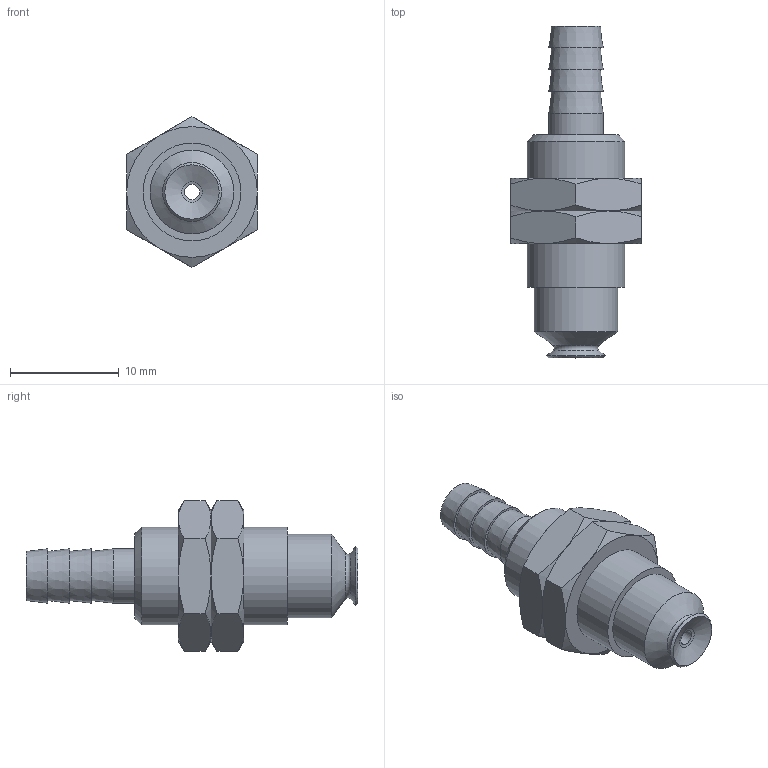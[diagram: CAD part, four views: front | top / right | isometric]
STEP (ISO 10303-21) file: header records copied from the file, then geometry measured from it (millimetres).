
FILE_DESCRIPTION(('STEP AP203'),'1');
FILE_NAME('.stp','2025-04-07T01:23:47',(' '),(' '),'Spatial InterOp 3D',' ',' ');
FILE_SCHEMA(('CONFIG_CONTROL_DESIGN'));
Length unit declared in the file: millimetre
Products named in the file (4): BBPFTK-5A-※; NUT-5A; PFTK-5A; BPFG-5A-※
Assembly tree (4 placements, depth 2):
  BBPFTK-5A-※
    NUT-5A  x2
    PFTK-5A
    BPFG-5A-※
Bounding box: 12 x 30.5 x 13.86 mm (x, y, z)
Volume: 1592.8 mm3; surface area: 1934.9 mm2
Topology: 4 solids, 4 shells, 85 faces, 170 edges, 100 vertices
Faces by surface type: cone 37, plane 27, cylinder 11, torus 9, bspline 1
Full cylindrical faces by diameter (mm): 1.4 x1, 2.5 x1, 4 x2, 5 x1, 6 x2, 7.7 x1, 7.917 x2, 9 x1
Entity records: 1807 total; most frequent: CARTESIAN_POINT 486, DIRECTION 248, ORIENTED_EDGE 170, AXIS2_PLACEMENT_3D 121, EDGE_LOOP 106, EDGE_CURVE 85, FACE_OUTER_BOUND 82, VERTEX_POINT 67
